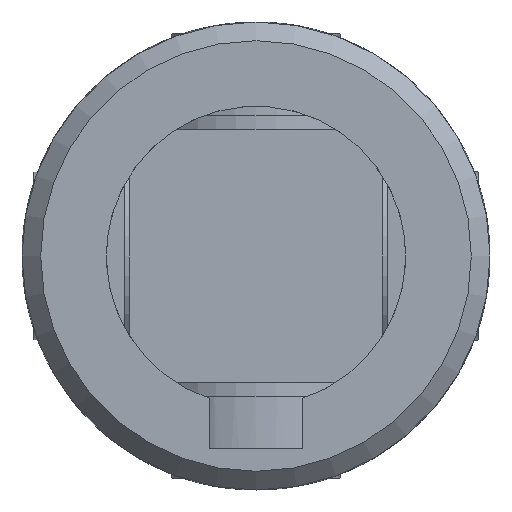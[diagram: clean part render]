
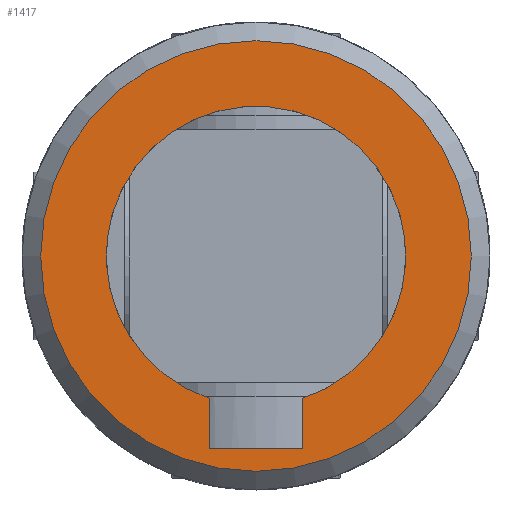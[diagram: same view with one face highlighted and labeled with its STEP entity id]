
A CAD part, front view. The second image highlights one B-rep face of the part: STEP entity #1417.
In plain terms, the highlighted planar face has unit normal (0, -1, 0).
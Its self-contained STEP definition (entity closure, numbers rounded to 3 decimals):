
#156=LINE('',#2517,#211);
#158=LINE('',#2523,#213);
#165=LINE('',#2570,#220);
#211=VECTOR('',#1843,5.);
#213=VECTOR('',#1849,2.701);
#220=VECTOR('',#1864,2.701);
#265=PLANE('',#1564);
#298=FACE_BOUND('',#476,.T.);
#364=FACE_OUTER_BOUND('',#475,.T.);
#475=EDGE_LOOP('',(#1207));
#476=EDGE_LOOP('',(#1208,#1209,#1210,#1211));
#550=CIRCLE('',#1548,8.);
#559=CIRCLE('',#1562,11.5);
#661=VERTEX_POINT('',#2514);
#662=VERTEX_POINT('',#2516);
#664=VERTEX_POINT('',#2522);
#666=VERTEX_POINT('',#2536);
#680=VERTEX_POINT('',#2615);
#832=EDGE_CURVE('',#662,#661,#156,.T.);
#835=EDGE_CURVE('',#664,#662,#158,.T.);
#839=EDGE_CURVE('',#666,#664,#550,.T.);
#847=EDGE_CURVE('',#661,#666,#165,.T.);
#860=EDGE_CURVE('',#680,#680,#559,.T.);
#1207=ORIENTED_EDGE('',*,*,#860,.F.);
#1208=ORIENTED_EDGE('',*,*,#832,.T.);
#1209=ORIENTED_EDGE('',*,*,#847,.T.);
#1210=ORIENTED_EDGE('',*,*,#839,.T.);
#1211=ORIENTED_EDGE('',*,*,#835,.T.);
#1417=ADVANCED_FACE('',(#364,#298),#265,.F.);
#1548=AXIS2_PLACEMENT_3D('',#2537,#1854,#1855);
#1562=AXIS2_PLACEMENT_3D('',#2616,#1887,#1888);
#1564=AXIS2_PLACEMENT_3D('',#2832,#1895,#1896);
#1843=DIRECTION('',(-1.,0.,0.));
#1849=DIRECTION('',(0.,0.,-1.));
#1854=DIRECTION('center_axis',(0.,1.,0.));
#1855=DIRECTION('ref_axis',(0.312,0.,-0.95));
#1864=DIRECTION('',(0.,0.,1.));
#1887=DIRECTION('center_axis',(0.,1.,0.));
#1888=DIRECTION('ref_axis',(1.,0.,0.));
#1895=DIRECTION('center_axis',(0.,1.,0.));
#1896=DIRECTION('ref_axis',(0.,0.,1.));
#2514=CARTESIAN_POINT('',(-2.5,-43.5,-10.3));
#2516=CARTESIAN_POINT('',(2.5,-43.5,-10.3));
#2517=CARTESIAN_POINT('',(1.25,-43.5,-10.3));
#2522=CARTESIAN_POINT('',(2.5,-43.5,-7.599));
#2523=CARTESIAN_POINT('',(2.5,-43.5,-3.8));
#2536=CARTESIAN_POINT('',(-2.5,-43.5,-7.599));
#2537=CARTESIAN_POINT('Origin',(0.,-43.5,0.));
#2570=CARTESIAN_POINT('',(-2.5,-43.5,-5.15));
#2615=CARTESIAN_POINT('',(-11.5,-43.5,0.));
#2616=CARTESIAN_POINT('Origin',(0.,-43.5,0.));
#2832=CARTESIAN_POINT('Origin',(0.,-43.5,0.));
